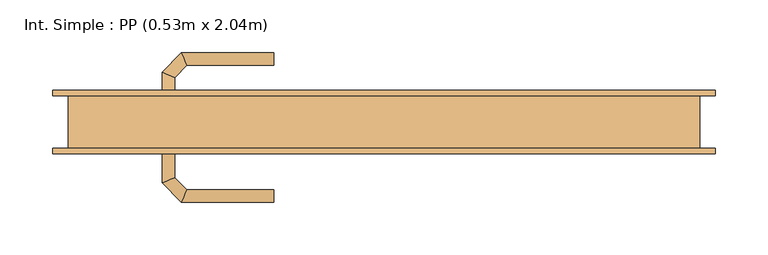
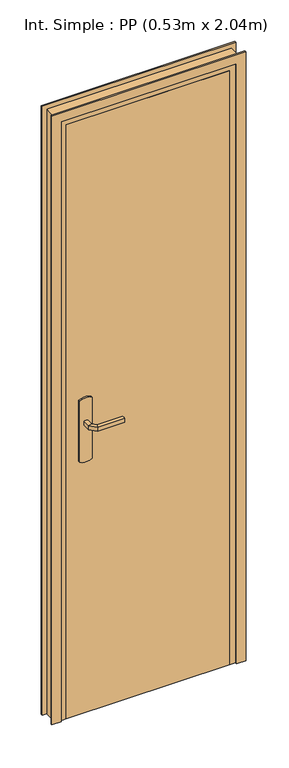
"""IFC4 building model written with IfcOpenShell, lengths in millimetres: door geometry, Int. Simple : PP (0.53m x 2.04m)."""

from ifc_helpers import new_model, si_unit, point, frame, frame_2d, origin, origin_with_axes, place, context, project, spatial, polyline, circle_curve, ellipse_curve, trimmed, segment, composite_curve, outline, extrude, faceted_brep, source, transform, mapped, element, save
from ifc_brep_helpers import plane_surface, cylinder_surface, advanced_brep


def int_simple_pp_0_53m_x_2_04m_44185372(model_context):
    return source(origin(), model_context, "Body", "SolidModel", [
        extrude(outline(composite_curve([segment(trimmed(circle_curve(frame_2d((904.6410162, -240.0)), 40.0), [point((870.0, -260.0))], [point((870.0, -220.0))], False, "CARTESIAN"), True, "CONTINUOUS"), segment(polyline([(870.0, -220.0), (1080.0, -220.0)]), True, "CONTINUOUS"), segment(trimmed(circle_curve(frame_2d((1045.3589838, -240.0)), 40.0), [point((1080.0, -220.0))], [point((1080.0, -260.0))], False, "CARTESIAN"), True, "CONTINUOUS"), segment(polyline([(1080.0, -260.0), (870.0, -260.0)]), True, "CONTINUOUS")], self_intersect=False)), frame((0.0, -30.0, 0.0), z_axis=(0.0, 1.0, 0.0), x_axis=(0.0, 0.0, 1.0)), (0.0, 0.0, 1.0), 5.0),
        extrude(outline(composite_curve([segment(trimmed(circle_curve(frame_2d((1045.3589838, -240.0)), 40.0), [point((1080.0, -220.0))], [point((1080.0, -260.0))], False, "CARTESIAN"), True, "CONTINUOUS"), segment(polyline([(1080.0, -260.0), (870.0, -260.0)]), True, "CONTINUOUS"), segment(trimmed(circle_curve(frame_2d((904.6410162, -240.0)), 40.0), [point((870.0, -260.0))], [point((870.0, -220.0))], False, "CARTESIAN"), True, "CONTINUOUS"), segment(polyline([(870.0, -220.0), (1080.0, -220.0)]), True, "CONTINUOUS")], self_intersect=False)), frame((0.0, 15.0, 0.0), z_axis=(0.0, 1.0, 0.0), x_axis=(0.0, 0.0, 1.0)), (0.0, 0.0, 1.0), 5.0),
        advanced_brep(
        [(-246.0, -30.0, 1007.0), (-234.0, -30.0, 1007.0), (-234.0, -30.0, 993.0), (-246.0, -30.0, 993.0), (-246.0, -57.6509507, 1007.0), (-234.0, -52.680388, 1007.0), (-234.0, -52.680388, 993.0), (-246.0, -57.6509507, 993.0), (-227.62279, -76.0281607, 1007.0), (-222.6522273, -64.0281607, 1007.0), (-222.6522273, -64.0281607, 993.0), (-227.62279, -76.0281607, 993.0), (-139.9813594, -76.0281607, 1007.0), (-139.9813594, -76.0281607, 993.0), (-139.9813594, -64.0281607, 993.0), (-139.9813594, -64.0281607, 1007.0)],
        [
            (0, 1, circle_curve(frame((-240.0, -30.0, 986.9542278), z_axis=(0.0, 1.0, 0.0), x_axis=(1.0, 0.0, 0.0)), 20.9244589)),
            (1, 2),
            (2, 3, circle_curve(frame((-240.0, -30.0, 1013.0457722), z_axis=(0.0, 1.0, 0.0), x_axis=(1.0, 0.0, 0.0)), 20.9244589)),
            (3, 0),
            (0, 4),
            (4, 5, ellipse_curve(frame((-240.0, -55.1656693, 986.9542278), z_axis=(-0.3826834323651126, 0.9238795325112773, 0.0), x_axis=(0.9238795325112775, 0.38268343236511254, 0.0)), 22.6484711, 20.9244589)),
            (5, 1),
            (5, 6),
            (6, 2),
            (6, 7, ellipse_curve(frame((-240.0, -55.1656693, 1013.0457722), z_axis=(-0.3826834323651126, 0.9238795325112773, 0.0), x_axis=(0.9238795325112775, 0.38268343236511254, 0.0)), 22.6484711, 20.9244589)),
            (7, 3),
            (7, 4),
            (4, 8),
            (8, 9, ellipse_curve(frame((-225.1375086, -70.0281607, 986.9542278), z_axis=(-0.9238795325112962, 0.38268343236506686, 0.0), x_axis=(0.3826834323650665, 0.9238795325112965, 0.0)), 22.6484711, 20.9244589)),
            (9, 5),
            (9, 10),
            (10, 6),
            (10, 11, ellipse_curve(frame((-225.1375086, -70.0281607, 1013.0457722), z_axis=(-0.9238795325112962, 0.38268343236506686, 0.0), x_axis=(0.3826834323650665, 0.9238795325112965, 0.0)), 22.6484711, 20.9244589)),
            (11, 7),
            (11, 8),
            (12, 13),
            (13, 14, circle_curve(frame((-139.9813594, -70.0281607, 1013.0457722), z_axis=(1.0, 0.0, 0.0), x_axis=(0.0, 1.0, 0.0)), 20.9244589)),
            (14, 15),
            (15, 12, circle_curve(frame((-139.9813594, -70.0281607, 986.9542278), z_axis=(1.0, 0.0, 0.0), x_axis=(0.0, 1.0, 0.0)), 20.9244589)),
            (8, 12),
            (15, 9),
            (14, 10),
            (13, 11),
        ],
        [
            plane_surface(frame((-249.2195445, -30.0, 1000.0), z_axis=(0.0, 1.0, 0.0), x_axis=(0.0, 0.0, -1.0))),
            cylinder_surface(frame((-240.0, -30.0, 986.9542278), z_axis=(0.0, 1.0, 0.0), x_axis=(1.0, 0.0, 0.0)), 20.9244589),
            plane_surface(frame((-234.0, -30.0, 1007.0), z_axis=(1.0, 0.0, 0.0), x_axis=(0.0, -1.0, 0.0))),
            cylinder_surface(frame((-240.0, -30.0, 1013.0457722), z_axis=(0.0, 1.0, 0.0), x_axis=(1.0, 0.0, 0.0)), 20.9244589),
            plane_surface(frame((-246.0, -30.0, 993.0), z_axis=(-1.0, 0.0, 0.0), x_axis=(0.0, -1.0, 0.0))),
            cylinder_surface(frame((-240.0, -55.1656693, 986.9542278), z_axis=(-0.7071067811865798, 0.7071067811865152, 0.0), x_axis=(0.7071067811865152, 0.7071067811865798, 0.0)), 20.9244589),
            plane_surface(frame((-234.0, -52.680388, 1007.0), z_axis=(0.7071067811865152, 0.7071067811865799, 0.0), x_axis=(0.7071067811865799, -0.7071067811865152, 0.0))),
            cylinder_surface(frame((-240.0, -55.1656693, 1013.0457722), z_axis=(-0.7071067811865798, 0.7071067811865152, 0.0), x_axis=(0.7071067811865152, 0.7071067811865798, 0.0)), 20.9244589),
            plane_surface(frame((-246.0, -57.6509507, 993.0), z_axis=(-0.7071067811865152, -0.7071067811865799, 0.0), x_axis=(0.7071067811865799, -0.7071067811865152, 0.0))),
            plane_surface(frame((-139.9813594, -70.0281607, 990.7804555), z_axis=(1.0, 0.0, 0.0), x_axis=(0.0, 1.0, 0.0))),
            cylinder_surface(frame((-225.1375086, -70.0281607, 986.9542278), z_axis=(-1.0, 0.0, 0.0), x_axis=(0.0, 1.0, 0.0)), 20.9244589),
            plane_surface(frame((-222.6522273, -64.0281607, 1007.0), z_axis=(0.0, 1.0, 0.0), x_axis=(1.0, 0.0, 0.0))),
            cylinder_surface(frame((-225.1375086, -70.0281607, 1013.0457722), z_axis=(-1.0, 0.0, 0.0), x_axis=(0.0, 1.0, 0.0)), 20.9244589),
            plane_surface(frame((-227.62279, -76.0281607, 993.0), z_axis=(0.0, -1.0, 0.0), x_axis=(1.0, 0.0, 0.0))),
        ],
        [
            (0, [[1, 2, 3, 4]]),
            (1, [[-1, 5, 6, 7]]),
            (2, [[-2, -7, 8, 9]]),
            (3, [[-3, -9, 10, 11]]),
            (4, [[-4, -11, 12, -5]]),
            (5, [[-6, 13, 14, 15]]),
            (6, [[-8, -15, 16, 17]]),
            (7, [[-10, -17, 18, 19]]),
            (8, [[-12, -19, 20, -13]]),
            (9, [[21, 22, 23, 24]]),
            (10, [[-14, 25, -24, 26]]),
            (11, [[-16, -26, -23, 27]]),
            (12, [[-18, -27, -22, 28]]),
            (13, [[-20, -28, -21, -25]]),
        ],
    ),
        advanced_brep(
        [(-234.0, 20.0, 993.0), (-234.0, 20.0, 1007.0), (-246.0, 20.0, 1007.0), (-246.0, 20.0, 993.0), (-234.0, 42.4852045, 993.0), (-234.0, 42.4852045, 1007.0), (-246.0, 47.4557673, 1007.0), (-246.0, 47.4557673, 993.0), (-222.5147186, 53.9704859, 993.0), (-222.5147186, 53.9704859, 1007.0), (-227.4852814, 65.9704859, 1007.0), (-227.4852814, 65.9704859, 993.0), (-139.9542163, 53.9704859, 993.0), (-139.9542163, 65.9704859, 993.0), (-139.9542163, 65.9704859, 1007.0), (-139.9542163, 53.9704859, 1007.0)],
        [
            (0, 1),
            (1, 2, circle_curve(frame((-240.0, 20.0, 986.9542278), z_axis=(0.0, -1.0, 0.0), x_axis=(-1.0, 0.0, 0.0)), 20.9244589)),
            (2, 3),
            (3, 0, circle_curve(frame((-240.0, 20.0, 1013.0457722), z_axis=(0.0, -1.0, 0.0), x_axis=(-1.0, 0.0, 0.0)), 20.9244589)),
            (0, 4),
            (4, 5),
            (5, 1),
            (5, 6, ellipse_curve(frame((-240.0, 44.9704859, 986.9542278), z_axis=(-0.3826834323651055, -0.9238795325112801, 0.0), x_axis=(0.9238795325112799, -0.3826834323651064, 0.0)), 22.6484711, 20.9244589)),
            (6, 2),
            (6, 7),
            (7, 3),
            (7, 4, ellipse_curve(frame((-240.0, 44.9704859, 1013.0457722), z_axis=(-0.3826834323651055, -0.9238795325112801, 0.0), x_axis=(0.9238795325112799, -0.3826834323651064, 0.0)), 22.6484711, 20.9244589)),
            (4, 8),
            (8, 9),
            (9, 5),
            (9, 10, ellipse_curve(frame((-225.0, 59.9704859, 986.9542278), z_axis=(-0.9238795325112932, -0.382683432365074, 0.0), x_axis=(0.3826834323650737, -0.9238795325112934, 0.0)), 22.6484711, 20.9244589)),
            (10, 6),
            (10, 11),
            (11, 7),
            (11, 8, ellipse_curve(frame((-225.0, 59.9704859, 1013.0457722), z_axis=(-0.9238795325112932, -0.382683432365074, 0.0), x_axis=(0.3826834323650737, -0.9238795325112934, 0.0)), 22.6484711, 20.9244589)),
            (12, 13, circle_curve(frame((-139.9542163, 59.9704859, 1013.0457722), z_axis=(1.0, 0.0, 0.0), x_axis=(0.0, 1.0, 0.0)), 20.9244589)),
            (13, 14),
            (14, 15, circle_curve(frame((-139.9542163, 59.9704859, 986.9542278), z_axis=(1.0, 0.0, 0.0), x_axis=(0.0, 1.0, 0.0)), 20.9244589)),
            (15, 12),
            (8, 12),
            (15, 9),
            (14, 10),
            (13, 11),
        ],
        [
            plane_surface(frame((-249.2195445, 20.0, 1000.0), z_axis=(0.0, -1.0, 0.0), x_axis=(0.0, 0.0, 1.0))),
            plane_surface(frame((-234.0, 20.0, 993.0), z_axis=(1.0, 0.0, 0.0), x_axis=(0.0, 1.0, 0.0))),
            cylinder_surface(frame((-240.0, 20.0, 986.9542278), z_axis=(0.0, -1.0, 0.0), x_axis=(-1.0, 0.0, 0.0)), 20.9244589),
            plane_surface(frame((-246.0, 20.0, 1007.0), z_axis=(-1.0, 0.0, 0.0), x_axis=(0.0, 1.0, 0.0))),
            cylinder_surface(frame((-240.0, 20.0, 1013.0457722), z_axis=(0.0, -1.0, 0.0), x_axis=(-1.0, 0.0, 0.0)), 20.9244589),
            plane_surface(frame((-234.0, 42.4852045, 993.0), z_axis=(0.7071067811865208, -0.7071067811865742, 0.0), x_axis=(0.7071067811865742, 0.7071067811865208, 0.0))),
            cylinder_surface(frame((-240.0, 44.9704859, 986.9542278), z_axis=(-0.7071067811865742, -0.7071067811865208, 0.0), x_axis=(-0.7071067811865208, 0.7071067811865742, 0.0)), 20.9244589),
            plane_surface(frame((-246.0, 47.4557673, 1007.0), z_axis=(-0.7071067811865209, 0.7071067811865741, 0.0), x_axis=(0.7071067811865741, 0.7071067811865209, 0.0))),
            cylinder_surface(frame((-240.0, 44.9704859, 1013.0457722), z_axis=(-0.7071067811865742, -0.7071067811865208, 0.0), x_axis=(-0.7071067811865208, 0.7071067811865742, 0.0)), 20.9244589),
            plane_surface(frame((-139.9542163, 59.9704859, 990.7804555), z_axis=(1.0, 0.0, 0.0), x_axis=(0.0, 1.0, 0.0))),
            plane_surface(frame((-222.5147186, 53.9704859, 993.0), z_axis=(0.0, -1.0, 0.0), x_axis=(1.0, 0.0, 0.0))),
            cylinder_surface(frame((-225.0, 59.9704859, 986.9542278), z_axis=(-1.0, 0.0, 0.0), x_axis=(0.0, 1.0, 0.0)), 20.9244589),
            plane_surface(frame((-227.4852814, 65.9704859, 1007.0), z_axis=(0.0, 1.0, 0.0), x_axis=(1.0, 0.0, 0.0))),
            cylinder_surface(frame((-225.0, 59.9704859, 1013.0457722), z_axis=(-1.0, 0.0, 0.0), x_axis=(0.0, 1.0, 0.0)), 20.9244589),
        ],
        [
            (0, [[1, 2, 3, 4]]),
            (1, [[-1, 5, 6, 7]]),
            (2, [[-2, -7, 8, 9]]),
            (3, [[-3, -9, 10, 11]]),
            (4, [[-4, -11, 12, -5]]),
            (5, [[-6, 13, 14, 15]]),
            (6, [[-8, -15, 16, 17]]),
            (7, [[-10, -17, 18, 19]]),
            (8, [[-12, -19, 20, -13]]),
            (9, [[21, 22, 23, 24]]),
            (10, [[-14, 25, -24, 26]]),
            (11, [[-16, -26, -23, 27]]),
            (12, [[-18, -27, -22, 28]]),
            (13, [[-20, -28, -21, -25]]),
        ],
    ),
        extrude(outline(polyline([(-300.0, 15.0), (230.0, 15.0), (230.0, -25.0), (-300.0, -25.0), (-300.0, 15.0)])), origin_with_axes(), (0.0, 0.0, 1.0), 2040.0),
        faceted_brep([(-335.0, -25.0, 0.0), (-335.0, 25.0, 0.0), (-285.0, 25.0, 0.0), (-285.0, 15.0, 0.0), (-300.0, 15.0, 0.0), (-300.0, -25.0, 0.0), (-335.0, -25.0, 2075.0), (-335.0, 25.0, 2075.0), (265.0, 25.0, 2075.0), (265.0, 25.0, 0.0), (215.0, 25.0, 0.0), (215.0, 25.0, 2025.0), (-285.0, 25.0, 2025.0), (-285.0, 15.0, 2025.0), (215.0, 15.0, 2025.0), (215.0, 15.0, 0.0), (230.0, 15.0, 0.0), (230.0, 15.0, 2040.0), (-300.0, 15.0, 2040.0), (-300.0, -25.0, 2040.0), (230.0, -25.0, 2040.0), (230.0, -25.0, 0.0), (265.0, -25.0, 0.0), (265.0, -25.0, 2075.0)], [[[0, 1, 2, 3, 4, 5]], [[1, 0, 6, 7]], [[2, 1, 7, 8, 9, 10, 11, 12]], [[3, 2, 12, 13]], [[4, 3, 13, 14, 15, 16, 17, 18]], [[5, 4, 18, 19]], [[0, 5, 19, 20, 21, 22, 23, 6]], [[8, 23, 22, 9]], [[22, 21, 16, 15, 10, 9]], [[14, 11, 10, 15]], [[20, 17, 16, 21]], [[7, 6, 23, 8]], [[13, 12, 11, 14]], [[19, 18, 17, 20]]]),
        extrude(outline(polyline([(0.0, -350.0), (0.0, -320.0), (2060.0, -320.0), (2060.0, 250.0), (0.0, 250.0), (0.0, 280.0), (2090.0, 280.0), (2090.0, -350.0), (0.0, -350.0)])), frame((0.0, -30.0, 0.0), z_axis=(0.0, 1.0, 0.0), x_axis=(0.0, 0.0, 1.0)), (0.0, 0.0, 1.0), 5.0),
        extrude(outline(polyline([(0.0, -350.0), (0.0, -320.0), (2060.0, -320.0), (2060.0, 250.0), (0.0, 250.0), (0.0, 280.0), (2090.0, 280.0), (2090.0, -350.0), (0.0, -350.0)])), frame((0.0, 25.0, 0.0), z_axis=(0.0, 1.0, 0.0), x_axis=(0.0, 0.0, 1.0)), (0.0, 0.0, 1.0), 5.0),
    ])


if __name__ == "__main__":
    model = new_model("IFC4")
    model_context = context("Model", 3, world=origin())
    ifc_project = project(units=[si_unit("LENGTHUNIT", "METRE", prefix="MILLI")], contexts=[model_context])
    site = spatial("IfcSite", under=ifc_project)
    building = spatial("IfcBuilding", under=site)
    placement = place(None, origin())
    int_simple_pp_0_53m_x_2_04m_shape = int_simple_pp_0_53m_x_2_04m_44185372(model_context)
    element("IfcDoor", 1, ObjectType="Int. Simple : PP (0.53m x 2.04m)", at=placement, inside=building, context=model_context, shape_type="MappedRepresentation", body=[
        mapped(int_simple_pp_0_53m_x_2_04m_shape, transform((0.0, 0.0, 0.0), x_axis=(1.0, 0.0, 0.0), y_axis=(0.0, 1.0, 0.0), z_axis=(0.0, 0.0, 1.0))),
    ])
    save(model, "model.ifc")
